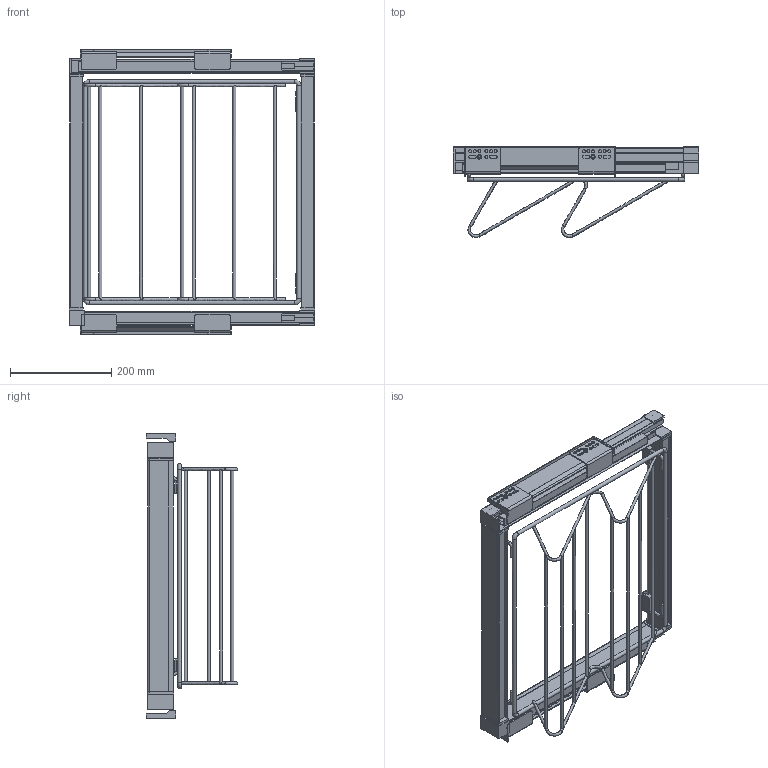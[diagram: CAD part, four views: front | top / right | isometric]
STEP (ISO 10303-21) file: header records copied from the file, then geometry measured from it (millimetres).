
FILE_DESCRIPTION(/* description */ (''),/* implementation_level */ '2;1');
FILE_NAME(/* name */ 'D:\$Workingspace\Designs\Katalog\Cadsoft\GTV New Elegance\Modele\WG-POBUW60-60\WG-POBUW60-60.stp',/* time_stamp */ '2018-09-11T08:34:18+02:00',/* author */ ('tomaszw'),/* organization */ (''),/* preprocessor_version */ 'ST-DEVELOPER v17',/* originating_system */ 'Autodesk Inventor 2019',/* authorisation */ '');
FILE_SCHEMA (('AUTOMOTIVE_DESIGN { 1 0 10303 214 3 1 1 }'));
Length unit declared in the file: millimetre
Products named in the file (6): WG-POBUW60-60; POBUW60-półka; POBUW60-haczyk; 3DAXIS-Wew-Góra-Cloce; Haczyk; WG-POBUW60M-60
Assembly tree (7 placements, depth 2):
  WG-POBUW60-60
    POBUW60-półka
    POBUW60-haczyk
    3DAXIS-Wew-Góra-Cloce
    Haczyk  x3
    WG-POBUW60M-60
Bounding box: 483 x 179.9 x 560 mm (x, y, z)
Volume: 1650953.4 mm3; surface area: 959661.6 mm2
Topology: 19 solids, 19 shells, 608 faces, 1717 edges, 1143 vertices
Faces by surface type: plane 410, cylinder 164, bspline 14, torus 12, cone 8
Full cylindrical faces by diameter (mm): 5 x4, 6 x52, 8 x2, 9 x4
Entity records: 19656 total; most frequent: CARTESIAN_POINT 4473, ORIENTED_EDGE 3158, DIRECTION 3050, EDGE_CURVE 1579, LINE 1078, VECTOR 1078, VERTEX_POINT 1051, AXIS2_PLACEMENT_3D 986
